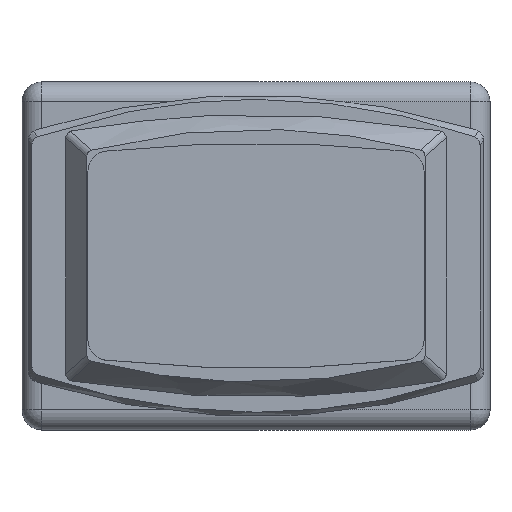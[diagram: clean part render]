
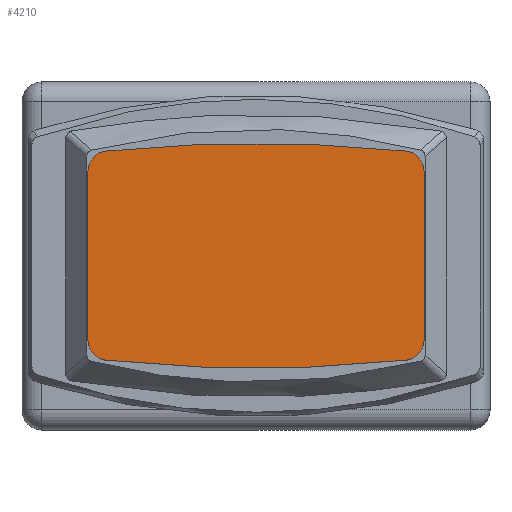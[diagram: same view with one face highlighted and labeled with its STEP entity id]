
A CAD part, top view. The second image highlights one B-rep face of the part: STEP entity #4210.
In plain terms, the highlighted planar face has unit normal (0, 0, 1).
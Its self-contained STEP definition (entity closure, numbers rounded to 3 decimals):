
#190=CIRCLE('',#4514,1.);
#192=CIRCLE('',#4518,70.81);
#193=CIRCLE('',#4519,1.);
#194=CIRCLE('',#4520,1.);
#195=CIRCLE('',#4521,70.81);
#196=CIRCLE('',#4522,1.);
#395=FACE_OUTER_BOUND('',#632,.T.);
#632=EDGE_LOOP('',(#3557,#3558,#3559,#3560,#3561,#3562,#3563,#3564));
#1119=LINE('',#6481,#1594);
#1122=LINE('',#6491,#1597);
#1594=VECTOR('',#5382,10.);
#1597=VECTOR('',#5391,10.);
#1944=VERTEX_POINT('',#6471);
#1945=VERTEX_POINT('',#6472);
#1948=VERTEX_POINT('',#6480);
#1950=VERTEX_POINT('',#6486);
#1951=VERTEX_POINT('',#6488);
#1952=VERTEX_POINT('',#6490);
#1953=VERTEX_POINT('',#6492);
#1954=VERTEX_POINT('',#6494);
#2495=EDGE_CURVE('',#1944,#1945,#190,.T.);
#2499=EDGE_CURVE('',#1948,#1945,#1119,.T.);
#2502=EDGE_CURVE('',#1944,#1950,#192,.T.);
#2503=EDGE_CURVE('',#1951,#1950,#193,.T.);
#2504=EDGE_CURVE('',#1951,#1952,#1122,.T.);
#2505=EDGE_CURVE('',#1953,#1952,#194,.T.);
#2506=EDGE_CURVE('',#1953,#1954,#195,.T.);
#2507=EDGE_CURVE('',#1948,#1954,#196,.T.);
#3557=ORIENTED_EDGE('',*,*,#2495,.F.);
#3558=ORIENTED_EDGE('',*,*,#2502,.T.);
#3559=ORIENTED_EDGE('',*,*,#2503,.F.);
#3560=ORIENTED_EDGE('',*,*,#2504,.T.);
#3561=ORIENTED_EDGE('',*,*,#2505,.F.);
#3562=ORIENTED_EDGE('',*,*,#2506,.T.);
#3563=ORIENTED_EDGE('',*,*,#2507,.F.);
#3564=ORIENTED_EDGE('',*,*,#2499,.T.);
#4029=PLANE('',#4517);
#4210=ADVANCED_FACE('',(#395),#4029,.T.);
#4514=AXIS2_PLACEMENT_3D('',#6473,#5374,#5375);
#4517=AXIS2_PLACEMENT_3D('',#6485,#5385,#5386);
#4518=AXIS2_PLACEMENT_3D('',#6487,#5387,#5388);
#4519=AXIS2_PLACEMENT_3D('',#6489,#5389,#5390);
#4520=AXIS2_PLACEMENT_3D('',#6493,#5392,#5393);
#4521=AXIS2_PLACEMENT_3D('',#6495,#5394,#5395);
#4522=AXIS2_PLACEMENT_3D('',#6496,#5396,#5397);
#5374=DIRECTION('center_axis',(0.,0.,-1.));
#5375=DIRECTION('ref_axis',(0.744,0.669,0.));
#5382=DIRECTION('',(0.,1.,0.));
#5385=DIRECTION('center_axis',(0.,0.,1.));
#5386=DIRECTION('ref_axis',(1.,0.,0.));
#5387=DIRECTION('center_axis',(0.,0.,1.));
#5388=DIRECTION('ref_axis',(0.119,0.993,0.));
#5389=DIRECTION('center_axis',(0.,0.,-1.));
#5390=DIRECTION('ref_axis',(-0.744,0.669,0.));
#5391=DIRECTION('',(0.,-1.,0.));
#5392=DIRECTION('center_axis',(0.,0.,-1.));
#5393=DIRECTION('ref_axis',(-0.744,-0.669,0.));
#5394=DIRECTION('center_axis',(0.,0.,1.));
#5395=DIRECTION('ref_axis',(-0.119,-0.993,0.));
#5396=DIRECTION('center_axis',(0.,0.,-1.));
#5397=DIRECTION('ref_axis',(0.744,-0.669,0.));
#6471=CARTESIAN_POINT('',(19.206,-3.474,11.));
#6472=CARTESIAN_POINT('',(20.1,-4.468,11.));
#6473=CARTESIAN_POINT('Origin',(19.1,-4.468,11.));
#6480=CARTESIAN_POINT('',(20.1,-12.932,11.));
#6481=CARTESIAN_POINT('',(20.1,-14.325,11.));
#6485=CARTESIAN_POINT('Origin',(11.7,-8.7,11.));
#6486=CARTESIAN_POINT('',(4.194,-3.474,11.));
#6487=CARTESIAN_POINT('Origin',(11.7,-73.885,11.));
#6488=CARTESIAN_POINT('',(3.3,-4.468,11.));
#6489=CARTESIAN_POINT('Origin',(4.3,-4.468,11.));
#6490=CARTESIAN_POINT('',(3.3,-12.932,11.));
#6491=CARTESIAN_POINT('',(3.3,-3.075,11.));
#6492=CARTESIAN_POINT('',(4.194,-13.926,11.));
#6493=CARTESIAN_POINT('Origin',(4.3,-12.932,11.));
#6494=CARTESIAN_POINT('',(19.206,-13.926,11.));
#6495=CARTESIAN_POINT('Origin',(11.7,56.485,11.));
#6496=CARTESIAN_POINT('Origin',(19.1,-12.932,11.));
